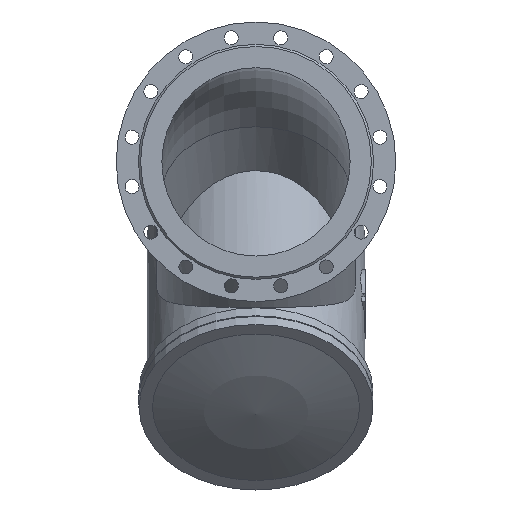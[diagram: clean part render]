
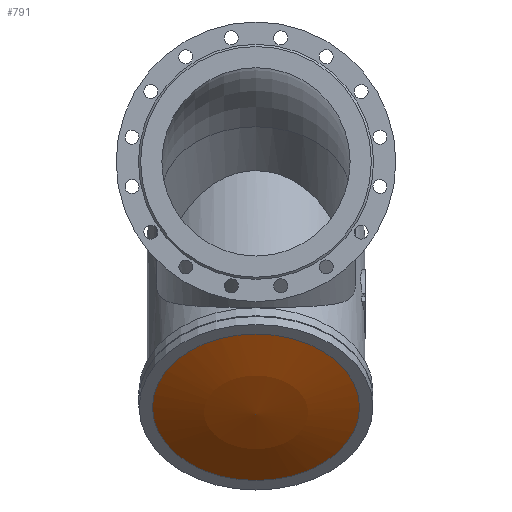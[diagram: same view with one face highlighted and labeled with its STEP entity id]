
A CAD part, front view. The second image highlights one B-rep face of the part: STEP entity #791.
In plain terms, the highlighted spherical face has radius 1038.34 mm.
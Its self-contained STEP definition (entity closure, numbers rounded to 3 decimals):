
#791=ADVANCED_FACE('',(#1690),#1692,.T.);
#1690=FACE_OUTER_BOUND('',#1691,.T.);
#1691=EDGE_LOOP('',(#2086));
#1692=SPHERICAL_SURFACE('',#1693,1038.34);
#1693=AXIS2_PLACEMENT_3D('',#1694,#1695,#1696);
#1694=CARTESIAN_POINT('',(0.,555.285,265.285));
#1695=DIRECTION('',(0.,-0.707,-0.707));
#1696=DIRECTION('',(0.,0.707,-0.707));
#2086=ORIENTED_EDGE('',*,*,#2260,.T.);
#2260=EDGE_CURVE('',#2560,#2560,#2561,.T.);
#2560=VERTEX_POINT('',#4120);
#2561=CIRCLE('',#4121,192.5);
#4120=CARTESIAN_POINT('',(0.,-30.086,-592.322));
#4121=AXIS2_PLACEMENT_3D('',#4122,#4123,#4124);
#4122=CARTESIAN_POINT('',(0.,-166.204,-456.204));
#4123=DIRECTION('',(0.,-0.707,-0.707));
#4124=DIRECTION('',(0.,0.707,-0.707));
